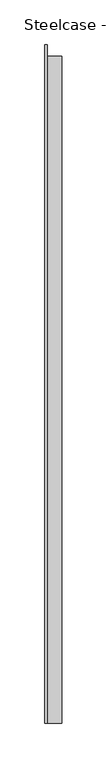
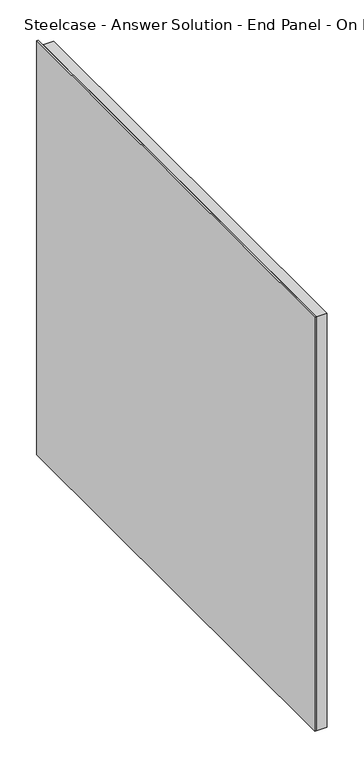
"""IFC4 building model written with IfcOpenShell, lengths in millimetres: furniture geometry, Steelcase - Answer Solution - End Panel - On Module : 30in - Left."""

from ifc_helpers import new_model, si_unit, origin, origin_with_axes, place, context, project, spatial, polyline, outline, extrude, source, transform, mapped, element, save


def steelcase_answer_solution_end_panel_on_module_30in_left_bc11ca10(model_context):
    return source(origin(), model_context, "Body", "SweptSolid", [
        extrude(outline(polyline([(-6.9848062, 0.0), (-6.9848062, -755.65), (-9.5248062, -755.65), (-9.5248062, 0.0), (-6.9848062, 0.0)])), origin_with_axes(), (0.0, 0.0, 1.0), 685.9143099),
        extrude(outline(polyline([(9.5251938, -12.7032217), (9.5251938, -755.65), (-6.9848062, -755.65), (-6.9848062, -12.7032217), (9.5251938, -12.7032217)])), origin_with_axes(), (0.0, 0.0, 1.0), 685.9143099),
    ])


if __name__ == "__main__":
    model = new_model("IFC4")
    model_context = context("Model", 3, world=origin())
    ifc_project = project(units=[si_unit("LENGTHUNIT", "METRE", prefix="MILLI")], contexts=[model_context])
    site = spatial("IfcSite", under=ifc_project)
    building = spatial("IfcBuilding", under=site)
    placement = place(None, origin())
    steelcase_answer_solution_end_panel_on_module_30in_left_shape = steelcase_answer_solution_end_panel_on_module_30in_left_bc11ca10(model_context)
    element("IfcFurniture", 1, ObjectType="Steelcase - Answer Solution - End Panel - On Module : 30in - Left", at=placement, inside=building, context=model_context, shape_type="MappedRepresentation", body=[
        mapped(steelcase_answer_solution_end_panel_on_module_30in_left_shape, transform((0.0, 0.0, 0.0), x_axis=(1.0, 0.0, 0.0), y_axis=(0.0, 1.0, 0.0), z_axis=(0.0, 0.0, 1.0))),
    ])
    save(model, "model.ifc")
